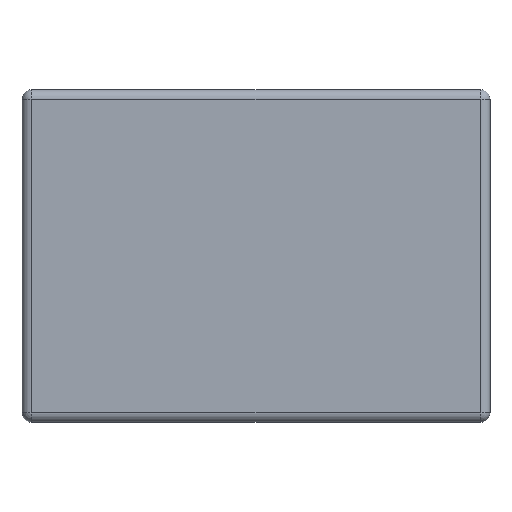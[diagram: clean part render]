
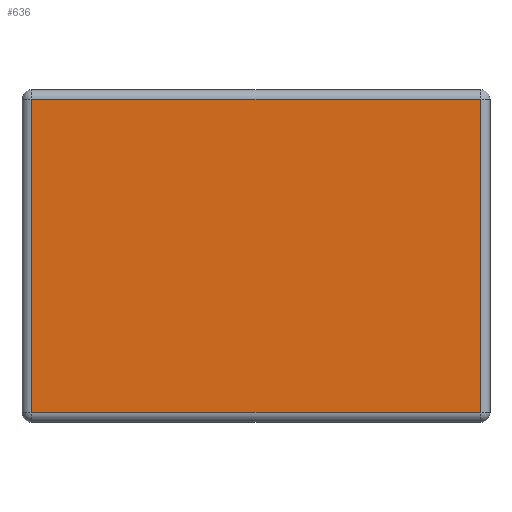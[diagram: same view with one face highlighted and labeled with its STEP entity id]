
A CAD part, front view. The second image highlights one B-rep face of the part: STEP entity #636.
In plain terms, the highlighted planar face has unit normal (0, -1, 0).
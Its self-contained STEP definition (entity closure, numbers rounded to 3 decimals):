
#8 = ORIENTED_EDGE ( 'NONE', *, *, #232, .T. ) ;
#51 = DIRECTION ( 'NONE',  ( 0., 0., -1. ) ) ;
#53 = DIRECTION ( 'NONE',  ( 0., -1., 0. ) ) ;
#59 = CARTESIAN_POINT ( 'NONE',  ( 0., 0., 0. ) ) ;
#65 = PLANE ( 'NONE',  #802 ) ;
#213 = VERTEX_POINT ( 'NONE', #759 ) ;
#218 = ORIENTED_EDGE ( 'NONE', *, *, #546, .T. ) ;
#232 = EDGE_CURVE ( 'NONE', #213, #292, #873, .T. ) ;
#266 = EDGE_LOOP ( 'NONE', ( #218, #8, #435, #908 ) ) ;
#289 = DIRECTION ( 'NONE',  ( -1., 0., 0. ) ) ;
#292 = VERTEX_POINT ( 'NONE', #478 ) ;
#301 = CARTESIAN_POINT ( 'NONE',  ( -23.25, 0., 16.225 ) ) ;
#306 = DIRECTION ( 'NONE',  ( 0., 0., 1. ) ) ;
#309 = CARTESIAN_POINT ( 'NONE',  ( 23.25, 0., 16.225 ) ) ;
#318 = DIRECTION ( 'NONE',  ( 0., 0., -1. ) ) ;
#322 = CARTESIAN_POINT ( 'NONE',  ( -23.25, 0., -16.225 ) ) ;
#435 = ORIENTED_EDGE ( 'NONE', *, *, #547, .T. ) ;
#478 = CARTESIAN_POINT ( 'NONE',  ( 23.25, 0., -16.225 ) ) ;
#546 = EDGE_CURVE ( 'NONE', #728, #213, #941, .T. ) ;
#547 = EDGE_CURVE ( 'NONE', #292, #658, #965, .T. ) ;
#554 = EDGE_CURVE ( 'NONE', #658, #728, #892, .T. ) ;
#636 = ADVANCED_FACE ( 'NONE', ( #784 ), #65, .T. ) ;
#658 = VERTEX_POINT ( 'NONE', #1061 ) ;
#728 = VERTEX_POINT ( 'NONE', #988 ) ;
#729 = CARTESIAN_POINT ( 'NONE',  ( 23.25, 0., -16.225 ) ) ;
#742 = DIRECTION ( 'NONE',  ( 1., 0., 0. ) ) ;
#759 = CARTESIAN_POINT ( 'NONE',  ( -23.25, 0., -16.225 ) ) ;
#784 = FACE_OUTER_BOUND ( 'NONE', #266, .T. ) ;
#795 = VECTOR ( 'NONE', #289, 1000. ) ;
#802 = AXIS2_PLACEMENT_3D ( 'NONE', #59, #53, #51 ) ;
#860 = VECTOR ( 'NONE', #742, 1000. ) ;
#871 = VECTOR ( 'NONE', #306, 1000. ) ;
#873 = LINE ( 'NONE', #729, #860 ) ;
#892 = LINE ( 'NONE', #301, #795 ) ;
#908 = ORIENTED_EDGE ( 'NONE', *, *, #554, .T. ) ;
#910 = VECTOR ( 'NONE', #318, 1000. ) ;
#941 = LINE ( 'NONE', #322, #910 ) ;
#965 = LINE ( 'NONE', #309, #871 ) ;
#988 = CARTESIAN_POINT ( 'NONE',  ( -23.25, 0., 16.225 ) ) ;
#1061 = CARTESIAN_POINT ( 'NONE',  ( 23.25, 0., 16.225 ) ) ;
